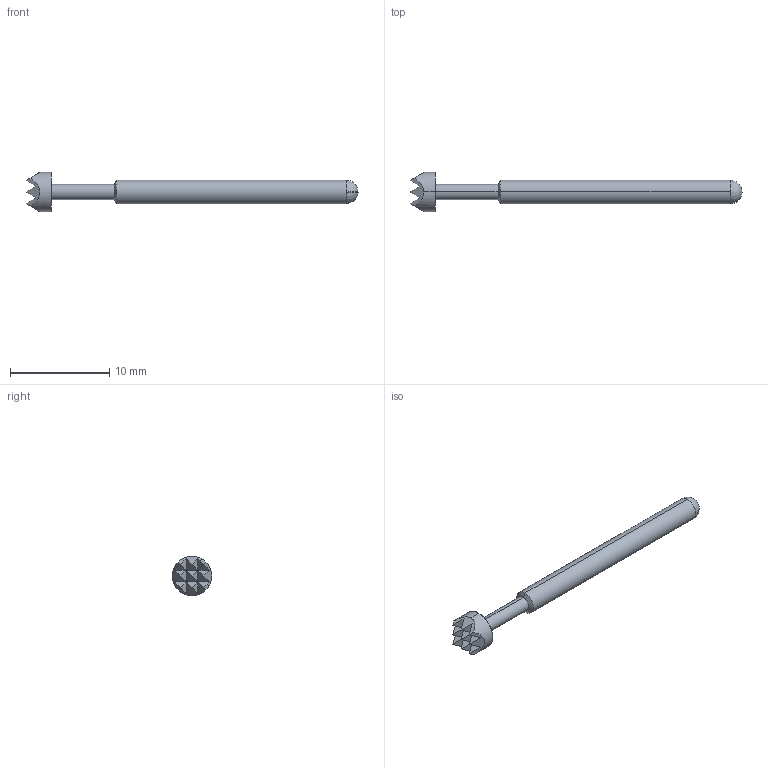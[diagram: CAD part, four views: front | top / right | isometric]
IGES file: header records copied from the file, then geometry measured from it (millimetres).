
Start section: SolidWorks IGES file using analytic representation for surfaces
Global section: file name: Z:\probe solid model mockups\Solidworks models\IGES Files\HCP-14 IGES files\HCP-14H.IGS; native system: SolidWorks 2006 by SolidWorks Corporation; preprocessor: SolidWorks 2006 by SolidWorks Corporation; author: tsakatani; date: 071202.143554; units: inch
Bounding box: 33.53 x 3.96 x 3.96 mm (x, y, z)
Surface area: 268 mm2 (no closed solid volume)
Topology: 0 solids, 0 shells, 39 faces, 250 edges, 248 vertices
Faces by surface type: bspline 29, revolution 10
